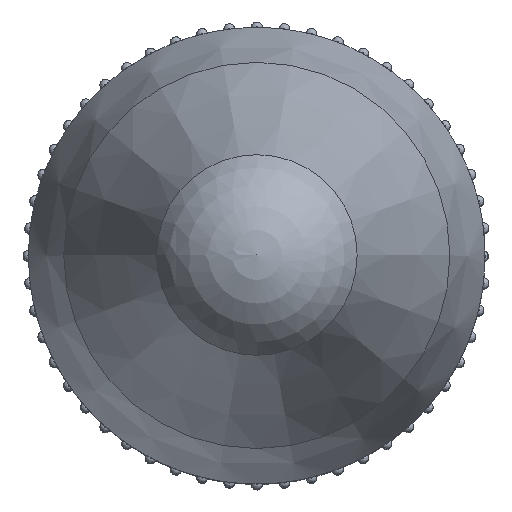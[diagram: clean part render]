
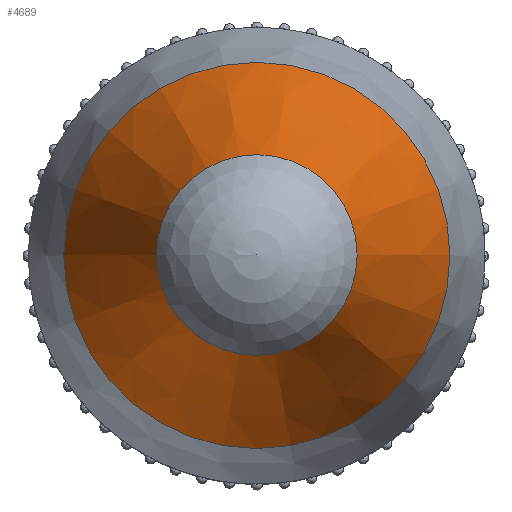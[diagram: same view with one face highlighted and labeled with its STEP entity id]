
A CAD part, top view. The second image highlights one B-rep face of the part: STEP entity #4689.
In plain terms, the highlighted conical face has half-angle 20.304 degrees and reference radius 23.174 mm.
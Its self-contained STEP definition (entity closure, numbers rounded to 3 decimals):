
#627=LINE('',#12502,#742);
#742=VECTOR('',#6572,23.174);
#749=CONICAL_SURFACE('',#5293,23.174,0.354);
#1032=FACE_OUTER_BOUND('',#1321,.T.);
#1321=EDGE_LOOP('',(#4269,#4270,#4271,#4272));
#1724=CIRCLE('',#5294,15.845);
#1725=CIRCLE('',#5295,30.502);
#2180=VERTEX_POINT('',#12499);
#2181=VERTEX_POINT('',#12501);
#2912=EDGE_CURVE('',#2180,#2180,#1724,.T.);
#2913=EDGE_CURVE('',#2180,#2181,#627,.T.);
#2914=EDGE_CURVE('',#2181,#2181,#1725,.T.);
#4269=ORIENTED_EDGE('',*,*,#2912,.F.);
#4270=ORIENTED_EDGE('',*,*,#2913,.T.);
#4271=ORIENTED_EDGE('',*,*,#2914,.T.);
#4272=ORIENTED_EDGE('',*,*,#2913,.F.);
#4689=ADVANCED_FACE('',(#1032),#749,.T.);
#5293=AXIS2_PLACEMENT_3D('',#12498,#6568,#6569);
#5294=AXIS2_PLACEMENT_3D('',#12500,#6570,#6571);
#5295=AXIS2_PLACEMENT_3D('',#12503,#6573,#6574);
#6568=DIRECTION('center_axis',(0.,0.,-1.));
#6569=DIRECTION('ref_axis',(1.,0.,0.));
#6570=DIRECTION('center_axis',(0.,0.,1.));
#6571=DIRECTION('ref_axis',(1.,0.,0.));
#6572=DIRECTION('',(-0.347,0.,-0.938));
#6573=DIRECTION('center_axis',(0.,0.,1.));
#6574=DIRECTION('ref_axis',(1.,0.,0.));
#12498=CARTESIAN_POINT('Origin',(0.,0.,982.757));
#12499=CARTESIAN_POINT('',(-15.845,0.,1002.563));
#12500=CARTESIAN_POINT('Origin',(0.,0.,1002.563));
#12501=CARTESIAN_POINT('',(-30.502,0.,962.95));
#12502=CARTESIAN_POINT('',(-23.174,0.,982.757));
#12503=CARTESIAN_POINT('Origin',(0.,0.,962.95));
